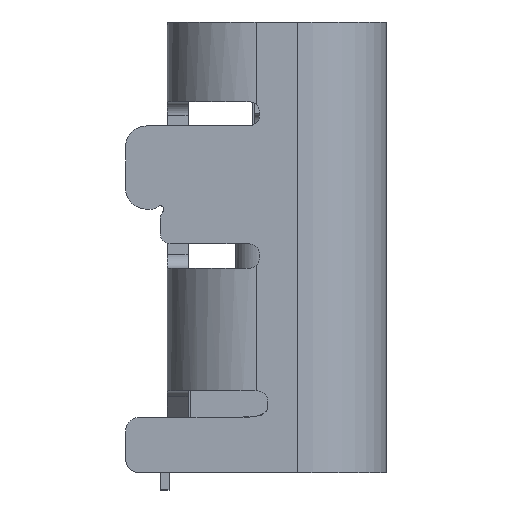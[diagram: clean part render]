
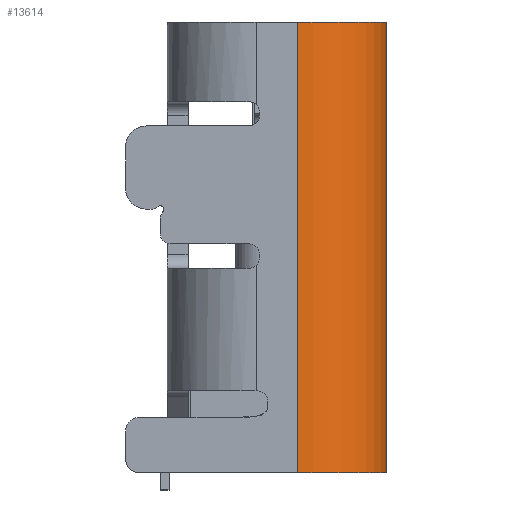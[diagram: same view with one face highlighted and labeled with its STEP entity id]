
A CAD part, left-side view. The second image highlights one B-rep face of the part: STEP entity #13614.
In plain terms, the highlighted cylindrical face has radius 1.28 mm (diameter 2.56 mm), a partial arc.
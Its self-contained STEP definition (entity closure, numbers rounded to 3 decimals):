
#2502=CARTESIAN_POINT('',(-3.19,-0.295,-6.35));
#2503=DIRECTION('',(0.,0.,1.));
#2504=DIRECTION('',(-1.,0.,0.));
#2505=AXIS2_PLACEMENT_3D('',#2502,#2503,#2504);
#2520=DIRECTION('',(0.,0.,1.));
#2521=VECTOR('',#2520,6.5);
#2522=CARTESIAN_POINT('',(-4.47,-0.295,-6.35));
#2523=LINE('',#2522,#2521);
#2524=DIRECTION('',(0.,0.,-1.));
#2525=VECTOR('',#2524,6.5);
#2526=CARTESIAN_POINT('',(-3.19,-1.575,0.15));
#2527=LINE('',#2526,#2525);
#2554=CARTESIAN_POINT('',(-3.19,-0.295,0.15));
#2555=DIRECTION('',(0.,0.,-1.));
#2556=DIRECTION('',(0.,-1.,0.));
#2557=AXIS2_PLACEMENT_3D('',#2554,#2555,#2556);
#8875=CARTESIAN_POINT('',(-4.47,-0.295,0.15));
#8876=VERTEX_POINT('',#8875);
#8877=CARTESIAN_POINT('',(-4.47,-0.295,-6.35));
#8878=VERTEX_POINT('',#8877);
#8931=CARTESIAN_POINT('',(-3.19,-1.575,-6.35));
#8932=VERTEX_POINT('',#8931);
#8939=CARTESIAN_POINT('',(-3.19,-1.575,0.15));
#8940=VERTEX_POINT('',#8939);
#13601=CARTESIAN_POINT('',(-3.19,-0.295,-1.35));
#13602=DIRECTION('',(0.,0.,1.));
#13603=DIRECTION('',(-1.,0.,0.));
#13604=AXIS2_PLACEMENT_3D('',#13601,#13602,#13603);
#13605=CYLINDRICAL_SURFACE('',#13604,1.28);
#13606=ORIENTED_EDGE('',*,*,#13053,.T.);
#13608=ORIENTED_EDGE('',*,*,#13607,.F.);
#13610=ORIENTED_EDGE('',*,*,#13609,.T.);
#13611=ORIENTED_EDGE('',*,*,#13587,.F.);
#13612=EDGE_LOOP('',(#13606,#13608,#13610,#13611));
#13613=FACE_OUTER_BOUND('',#13612,.F.);
#13614=ADVANCED_FACE('',(#13613),#13605,.T.);
#2506=CIRCLE('',#2505,1.28);
#2558=CIRCLE('',#2557,1.28);
#13053=EDGE_CURVE('',#8878,#8876,#2523,.T.);
#13587=EDGE_CURVE('',#8878,#8932,#2506,.T.);
#13607=EDGE_CURVE('',#8940,#8876,#2558,.T.);
#13609=EDGE_CURVE('',#8940,#8932,#2527,.T.);
